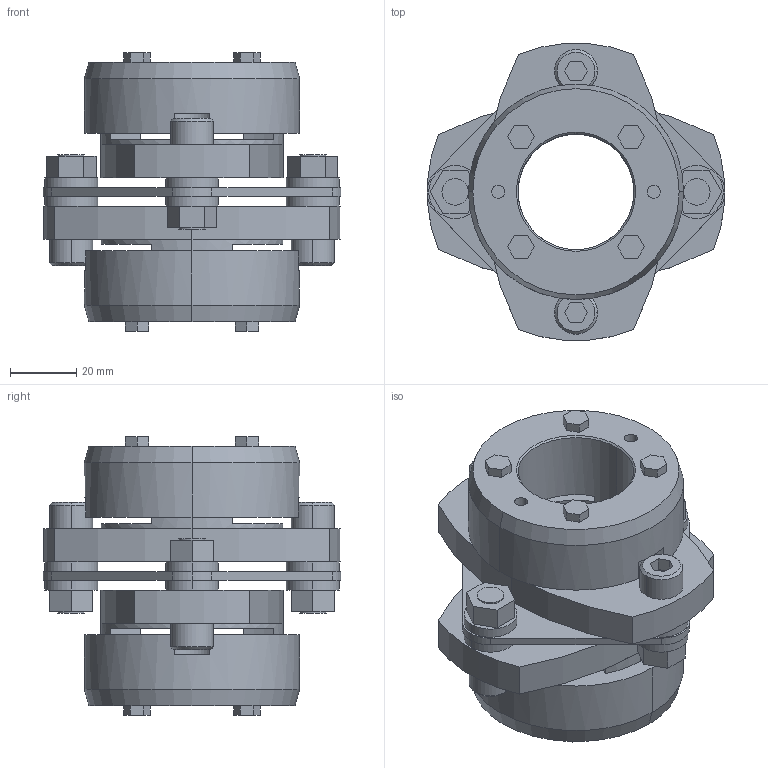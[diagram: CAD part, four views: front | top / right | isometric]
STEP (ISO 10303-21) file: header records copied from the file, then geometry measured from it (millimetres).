
FILE_DESCRIPTION((''),'2;1');
FILE_NAME('LCS-90T7-35×35.stp','2011-09-09T10:22:12',(''),(''),'AutoCAD STEP 2000i','AutoCAD 2000i',', , ');
FILE_SCHEMA(('CONFIG_CONTROL_DESIGN'));
Length unit declared in the file: millimetre
Products named in the file (14): LCS-90T7-35×35; 忣兜1; LC90T7-T035-1; LC90T7-T035; LC90T7-T032-1; LC90T7-T032; LC90T7-T030; LC90T7-T025-1; LC90T7-T025; LC90T7-T019-1; LC90T7-T019; LC90-B019-1; LC90-B019; LCS90-ITA
Assembly tree (13 placements, depth 2):
  LCS-90T7-35×35
    忣兜1
    LC90T7-T035-1
    LC90T7-T035
    LC90T7-T032-1
    LC90T7-T032
    LC90T7-T030
    LC90T7-T025-1
    LC90T7-T025
    LC90T7-T019-1
    LC90T7-T019
    LC90-B019-1
    LC90-B019
    LCS90-ITA
Bounding box: 90 x 89.94 x 84.1 mm (x, y, z)
Volume: 191721.9 mm3; surface area: 53208.4 mm2
Topology: 1 solids, 1 shells, 256 faces, 628 edges, 408 vertices
Faces by surface type: plane 152, cylinder 84, cone 20
Entity records: 7861 total; most frequent: DIRECTION 1380, CARTESIAN_POINT 1306, ORIENTED_EDGE 1256, EDGE_CURVE 628, AXIS2_PLACEMENT_3D 482, VECTOR 416, LINE 416, VERTEX_POINT 408
